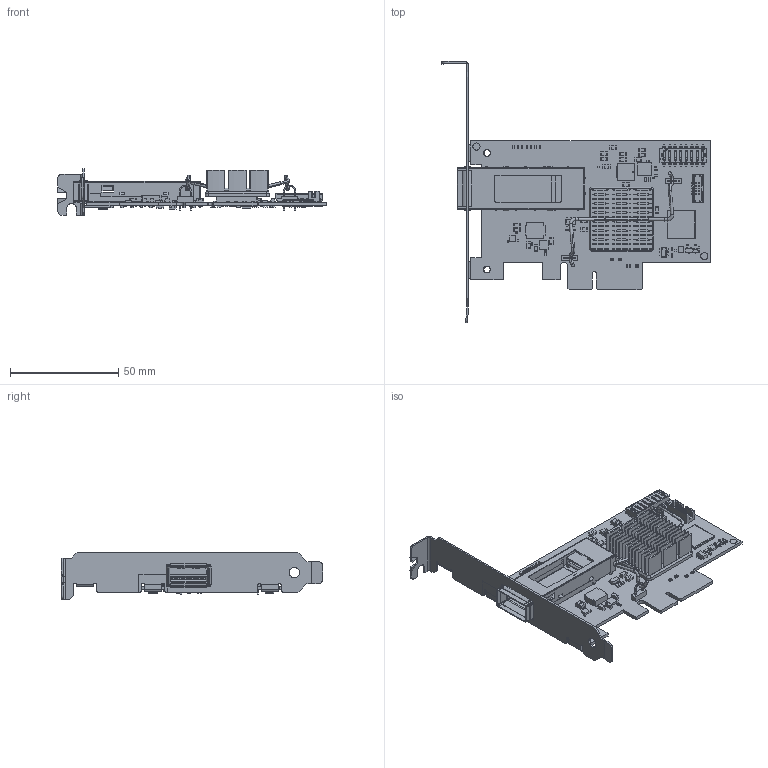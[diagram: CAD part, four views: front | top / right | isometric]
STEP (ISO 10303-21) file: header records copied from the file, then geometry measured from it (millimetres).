
FILE_DESCRIPTION(('FreeCAD Model'),'2;1');
FILE_NAME( 'C:/projects/adnacom/H14/Job/REV1.1/allegro/H14_11_2021-08-31.step', '2021-09-01T09:00:45',('Author'),(''), 'Open CASCADE STEP processor 7.3','FreeCAD','Unknown');
FILE_SCHEMA(('AUTOMOTIVE_DESIGN { 1 0 10303 214 1 1 1 1 }'));
Length unit declared in the file: millimetre
Products named in the file (529): H14_11_2021-08-31; BOARD_OUTLINE; COMPONENTS; IHLP2525; ST1S41PUR; OSCCC210P320X250X85-6N; R0402_24; Document; R0402_025; Document001; L1207; L1206; Cube015; Cube016; Cube017; L1209; L1208; L1211; L1210; L1213; L1212; L1215; L1214; L1217; L1216; CON_3220-10-0300-001; CON_3220-10-0300-00; 801-2195-10-K; 2195SM-PIN; 2195SM-PIN001; 2195SM-PIN002; 2195SM-PIN003; 2195SM-PIN004; 2195SM-PIN005; 2195SM-PIN006; 2195SM-PIN007; 2195SM-PIN008; 2195SM-PIN009; BGA216C80P15X15_1300X1300X111; ASSEMBLY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
Assembly tree (1404 placements, depth 5):
  H14_11_2021-08-31
    BOARD_OUTLINE
    COMPONENTS
      IHLP2525
      ST1S41PUR
      OSCCC210P320X250X85-6N
      R0402_24
        Document
      R0402_025
        Document001
      L1207
        L1206
          Cube015
          Cube016
          Cube017
      L1209
        L1208
          Cube015
          Cube016
          Cube017
      L1211
        L1210
          Cube015
          Cube016
          Cube017
      L1213
        L1212
          Cube015
          Cube016
          Cube017
      L1215
        L1214
          Cube015
          Cube016
          Cube017
      L1217
        L1216
          Cube015
          Cube016
          Cube017
      CON_3220-10-0300-001
        CON_3220-10-0300-00
          801-2195-10-K
          2195SM-PIN
          2195SM-PIN001
          2195SM-PIN002
          2195SM-PIN003
          2195SM-PIN004
          2195SM-PIN005
          2195SM-PIN006
          2195SM-PIN007
          2195SM-PIN008
          2195SM-PIN009
      BGA216C80P15X15_1300X1300X111
        ASSEMBLY
          BGA216C80P15X15_1300X1300X110
      SC-70-004
        SC-70-3
          COMPOUND001
      HS_UB30-12B
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Bounding box: 124.31 x 120.87 x 21.59 mm (x, y, z)
Volume: 8996.6 mm3; surface area: 40849.5 mm2
Topology: 796 solids, 1521 shells, 7748 faces, 31059 edges, 67093 vertices
Faces by surface type: plane 6076, bspline 994, cylinder 467, revolution 183, torus 16, sphere 8, cone 4
Full cylindrical faces by diameter (mm): 0.166 x2, 0.408 x1
Entity records: 360820 total; most frequent: CARTESIAN_POINT 147129, DIRECTION 26759, ORIENTED_EDGE 21972, LINE 13248, VECTOR 13248, GEOMETRIC_CURVE_SET 12159, TRIMMED_CURVE 12072, EDGE_CURVE 11888
